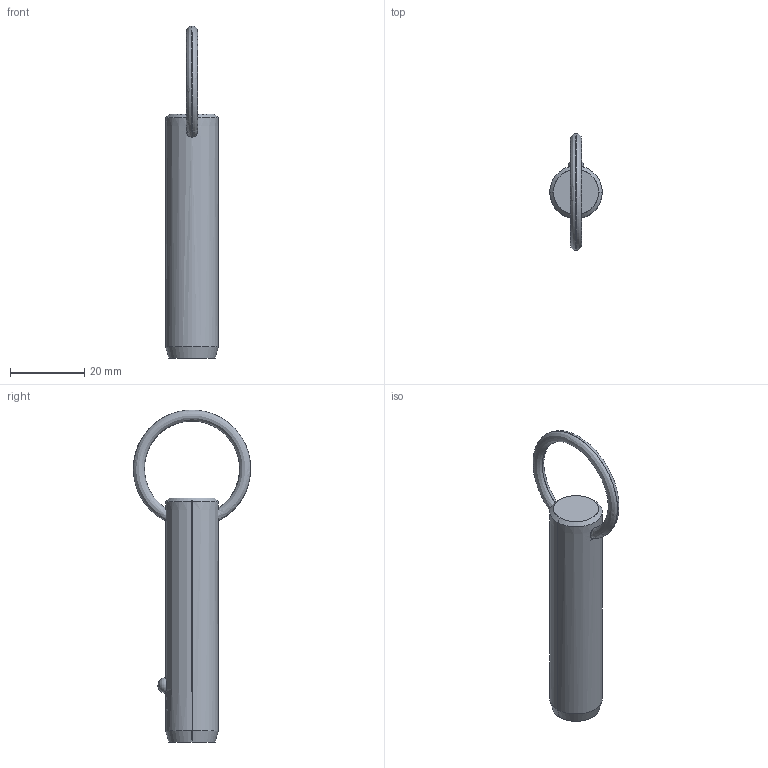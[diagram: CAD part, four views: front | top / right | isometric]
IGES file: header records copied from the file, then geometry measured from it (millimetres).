
Start section: SolidWorks IGES file using analytic representation for surfaces
Global section: file name: C:\Users\liam_\OneDrive\Documents\WORK\Work for WixRoyd\Job Files\J-00019 - Matt Davis CAD Checking\04. CAD Drawings\automotion20190605\P1250.2_v2\P1250.2_v2_20190729_IGES\P1250.056-160.igs; native system: SolidWorks 2017; preprocessor: SolidWorks 2017; author: liam_; date: 190729.231620; units: millimetre
Bounding box: 14.2 x 31.69 x 89.7 mm (x, y, z)
Surface area: 3905.7 mm2 (no closed solid volume)
Topology: 0 solids, 0 shells, 12 faces, 285 edges, 283 vertices
Faces by surface type: revolution 8, bspline 4
